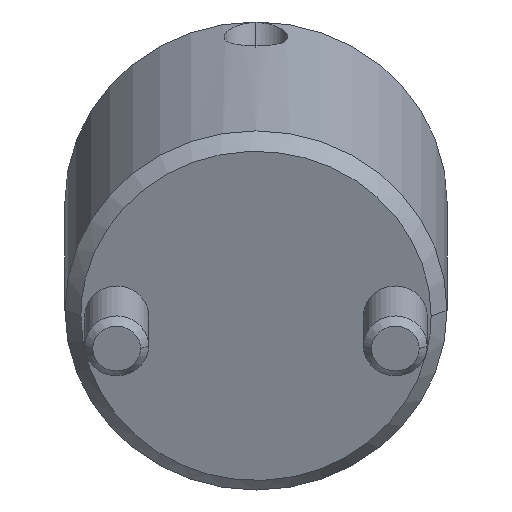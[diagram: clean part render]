
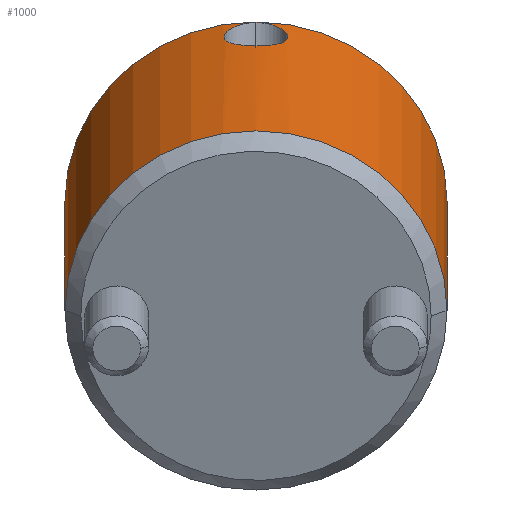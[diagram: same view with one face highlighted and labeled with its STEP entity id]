
A CAD part, front view. The second image highlights one B-rep face of the part: STEP entity #1000.
In plain terms, the highlighted cylindrical face has radius 12 mm (diameter 24 mm), a partial arc.
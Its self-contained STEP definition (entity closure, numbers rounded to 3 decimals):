
#778=CARTESIAN_POINT('Vertex',(0.,12.,1.)) ;
#781=CARTESIAN_POINT('Axis2P3D Location',(0.,0.,1.)) ;
#785=CARTESIAN_POINT('Vertex',(0.,-12.,1.)) ;
#925=CARTESIAN_POINT('Axis2P3D Location',(0.,0.,-1.1)) ;
#930=CARTESIAN_POINT('Line Origine',(0.,12.,-1.1)) ;
#934=CARTESIAN_POINT('Vertex',(0.,12.,21.)) ;
#937=CARTESIAN_POINT('Axis2P3D Location',(0.,0.,21.)) ;
#941=CARTESIAN_POINT('Vertex',(0.,-12.,21.)) ;
#944=CARTESIAN_POINT('Line Origine',(0.,-12.,-1.1)) ;
#956=CARTESIAN_POINT('Control Point',(12.,0.,20.893)) ;
#957=CARTESIAN_POINT('Control Point',(12.,0.268,20.893)) ;
#958=CARTESIAN_POINT('Control Point',(11.992,0.53,20.843)) ;
#959=CARTESIAN_POINT('Control Point',(11.978,0.783,20.744)) ;
#960=CARTESIAN_POINT('Control Point',(11.933,1.321,20.418)) ;
#961=CARTESIAN_POINT('Control Point',(11.879,1.716,19.904)) ;
#962=CARTESIAN_POINT('Control Point',(11.852,1.88,19.565)) ;
#963=CARTESIAN_POINT('Control Point',(11.824,2.049,18.918)) ;
#964=CARTESIAN_POINT('Control Point',(11.835,1.984,18.258)) ;
#965=CARTESIAN_POINT('Control Point',(11.848,1.909,17.977)) ;
#966=CARTESIAN_POINT('Control Point',(11.881,1.698,17.525)) ;
#967=CARTESIAN_POINT('Control Point',(11.923,1.368,17.161)) ;
#968=CARTESIAN_POINT('Control Point',(11.941,1.21,17.027)) ;
#969=CARTESIAN_POINT('Control Point',(11.97,0.887,16.819)) ;
#970=CARTESIAN_POINT('Control Point',(11.99,0.524,16.694)) ;
#971=CARTESIAN_POINT('Control Point',(11.997,0.351,16.655)) ;
#972=CARTESIAN_POINT('Control Point',(12.,0.177,16.636)) ;
#973=CARTESIAN_POINT('Control Point',(12.,0.,16.636)) ;
#974=CARTESIAN_POINT('Vertex',(12.,0.,20.893)) ;
#976=CARTESIAN_POINT('Vertex',(12.,0.,16.636)) ;
#980=CARTESIAN_POINT('Control Point',(12.,0.,16.636)) ;
#981=CARTESIAN_POINT('Control Point',(12.,-0.345,16.636)) ;
#982=CARTESIAN_POINT('Control Point',(11.988,-0.682,16.709)) ;
#983=CARTESIAN_POINT('Control Point',(11.963,-1.01,16.859)) ;
#984=CARTESIAN_POINT('Control Point',(11.902,-1.572,17.29)) ;
#985=CARTESIAN_POINT('Control Point',(11.849,-1.907,17.922)) ;
#986=CARTESIAN_POINT('Control Point',(11.831,-2.004,18.275)) ;
#987=CARTESIAN_POINT('Control Point',(11.824,-2.05,19.014)) ;
#988=CARTESIAN_POINT('Control Point',(11.863,-1.815,19.715)) ;
#989=CARTESIAN_POINT('Control Point',(11.893,-1.627,20.043)) ;
#990=CARTESIAN_POINT('Control Point',(11.944,-1.221,20.5)) ;
#991=CARTESIAN_POINT('Control Point',(11.983,-0.694,20.776)) ;
#992=CARTESIAN_POINT('Control Point',(11.994,-0.47,20.854)) ;
#993=CARTESIAN_POINT('Control Point',(12.,-0.237,20.893)) ;
#994=CARTESIAN_POINT('Control Point',(12.,0.,20.893)) ;
#782=DIRECTION('Axis2P3D Direction',(0.,0.,1.)) ;
#926=DIRECTION('Axis2P3D Direction',(0.,-0.,1.)) ;
#927=DIRECTION('Axis2P3D XDirection',(0.,-1.,0.)) ;
#931=DIRECTION('Vector Direction',(0.,0.,1.)) ;
#938=DIRECTION('Axis2P3D Direction',(0.,-0.,1.)) ;
#945=DIRECTION('Vector Direction',(0.,0.,1.)) ;
#783=AXIS2_PLACEMENT_3D('Circle Axis2P3D',#781,#782,$) ;
#928=AXIS2_PLACEMENT_3D('Cylinder Axis2P3D',#925,#926,#927) ;
#939=AXIS2_PLACEMENT_3D('Circle Axis2P3D',#937,#938,$) ;
#950=ORIENTED_EDGE('',*,*,#936,.F.) ;
#951=ORIENTED_EDGE('',*,*,#943,.T.) ;
#952=ORIENTED_EDGE('',*,*,#948,.T.) ;
#953=ORIENTED_EDGE('',*,*,#787,.F.) ;
#997=ORIENTED_EDGE('',*,*,#978,.T.) ;
#998=ORIENTED_EDGE('',*,*,#995,.T.) ;
#999=FACE_BOUND('',#996,.T.) ;
#932=VECTOR('Line Direction',#931,1.) ;
#946=VECTOR('Line Direction',#945,1.) ;
#1000=ADVANCED_FACE('MANIFOLD_SOLID_BREP #1098',(#954,#999),#929,.T.) ;
#955=B_SPLINE_CURVE_WITH_KNOTS('',5,(#956,#957,#958,#959,#960,#961,#962,#963,#964,#965,#966,#967,#968,#969,#970,#971,#972,#973),.UNSPECIFIED.,.F.,.U.,(6,3,3,3,3,6),(0.,1.901,4.48,6.478,7.949,9.197),.UNSPECIFIED.) ;
#979=B_SPLINE_CURVE_WITH_KNOTS('',5,(#980,#981,#982,#983,#984,#985,#986,#987,#988,#989,#990,#991,#992,#993,#994),.UNSPECIFIED.,.F.,.U.,(6,3,3,3,6),(0.,2.447,4.948,7.517,9.195),.UNSPECIFIED.) ;
#784=CIRCLE('generated circle',#783,12.) ;
#940=CIRCLE('generated circle',#939,12.) ;
#929=CYLINDRICAL_SURFACE('generated cylinder',#928,12.) ;
#787=EDGE_CURVE('',#779,#786,#784,.F.) ;
#936=EDGE_CURVE('',#935,#779,#933,.F.) ;
#943=EDGE_CURVE('',#935,#942,#940,.F.) ;
#948=EDGE_CURVE('',#942,#786,#947,.F.) ;
#978=EDGE_CURVE('',#975,#977,#955,.T.) ;
#995=EDGE_CURVE('',#977,#975,#979,.T.) ;
#949=EDGE_LOOP('',(#950,#951,#952,#953)) ;
#996=EDGE_LOOP('',(#997,#998)) ;
#954=FACE_OUTER_BOUND('',#949,.T.) ;
#933=LINE('Line',#930,#932) ;
#947=LINE('Line',#944,#946) ;
#779=VERTEX_POINT('',#778) ;
#786=VERTEX_POINT('',#785) ;
#935=VERTEX_POINT('',#934) ;
#942=VERTEX_POINT('',#941) ;
#975=VERTEX_POINT('',#974) ;
#977=VERTEX_POINT('',#976) ;
